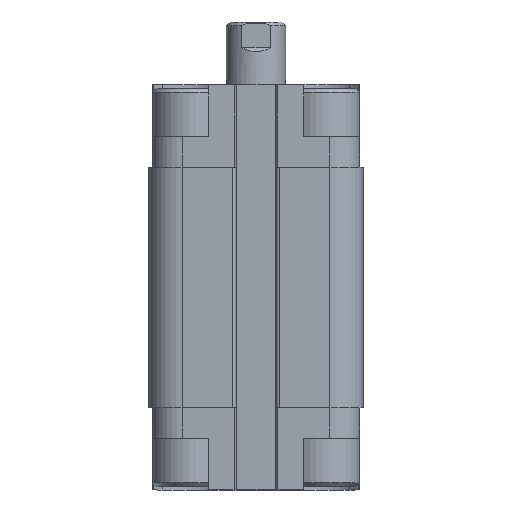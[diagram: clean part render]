
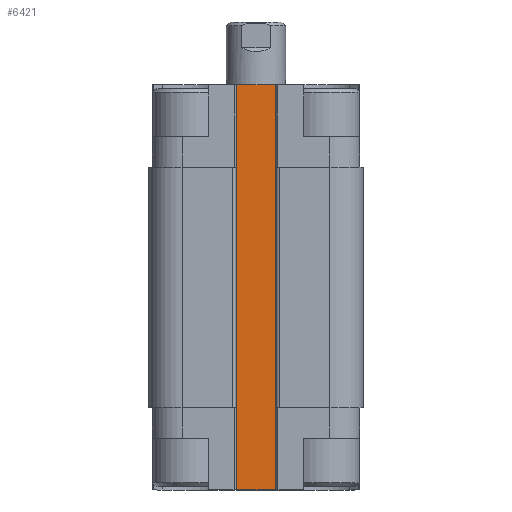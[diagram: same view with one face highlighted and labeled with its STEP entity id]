
A CAD part, front view. The second image highlights one B-rep face of the part: STEP entity #6421.
In plain terms, the highlighted planar face has unit normal (0, -1, 0).
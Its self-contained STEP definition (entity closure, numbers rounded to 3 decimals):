
#50 = CARTESIAN_POINT ( 'NONE',  ( -2.6, -10.2, 43.65 ) ) ;
#59 = CARTESIAN_POINT ( 'NONE',  ( 2.6, -10.2, 43.65 ) ) ;
#1076 = VERTEX_POINT ( 'NONE', #50 ) ;
#1085 = VERTEX_POINT ( 'NONE', #59 ) ;
#1763 = AXIS2_PLACEMENT_3D ( 'NONE', #9330, #9338, #9339 ) ;
#2784 = DIRECTION ( 'NONE',  ( 1., 0., 0. ) ) ;
#2790 = CARTESIAN_POINT ( 'NONE',  ( 0., -10.2, 43.65 ) ) ;
#2921 = LINE ( 'NONE', #8927, #2931 ) ;
#2925 = LINE ( 'NONE', #8923, #2927 ) ;
#2926 = LINE ( 'NONE', #8931, #2929 ) ;
#2927 = VECTOR ( 'NONE', #8917, 1000. ) ;
#2929 = VECTOR ( 'NONE', #8933, 1000. ) ;
#2931 = VECTOR ( 'NONE', #8934, 1000. ) ;
#4760 = EDGE_LOOP ( 'NONE', ( #6079, #6080, #6081, #6082 ) ) ;
#5210 = EDGE_CURVE ( 'NONE', #1076, #1085, #7264, .T. ) ;
#5278 = EDGE_CURVE ( 'NONE', #9056, #1076, #2925, .T. ) ;
#5279 = EDGE_CURVE ( 'NONE', #9056, #9015, #2926, .T. ) ;
#5280 = EDGE_CURVE ( 'NONE', #1085, #9015, #2921, .T. ) ;
#6079 = ORIENTED_EDGE ( 'NONE', *, *, #5279, .T. ) ;
#6080 = ORIENTED_EDGE ( 'NONE', *, *, #5280, .F. ) ;
#6081 = ORIENTED_EDGE ( 'NONE', *, *, #5210, .F. ) ;
#6082 = ORIENTED_EDGE ( 'NONE', *, *, #5278, .F. ) ;
#6421 = ADVANCED_FACE ( 'NONE', ( #7685 ), #9335, .F. ) ;
#7264 = LINE ( 'NONE', #2790, #7269 ) ;
#7269 = VECTOR ( 'NONE', #2784, 1000. ) ;
#7685 = FACE_OUTER_BOUND ( 'NONE', #4760, .T. ) ;
#8917 = DIRECTION ( 'NONE',  ( 0., 0., 1. ) ) ;
#8923 = CARTESIAN_POINT ( 'NONE',  ( -2.6, -10.2, 16.25 ) ) ;
#8927 = CARTESIAN_POINT ( 'NONE',  ( 2.6, -10.2, 16.25 ) ) ;
#8931 = CARTESIAN_POINT ( 'NONE',  ( 0., -10.2, -11.15 ) ) ;
#8933 = DIRECTION ( 'NONE',  ( 1., 0., 0. ) ) ;
#8934 = DIRECTION ( 'NONE',  ( 0., 0., -1. ) ) ;
#9015 = VERTEX_POINT ( 'NONE', #9880 ) ;
#9056 = VERTEX_POINT ( 'NONE', #9913 ) ;
#9330 = CARTESIAN_POINT ( 'NONE',  ( 2.6, -10.2, -11.15 ) ) ;
#9335 = PLANE ( 'NONE',  #1763 ) ;
#9338 = DIRECTION ( 'NONE',  ( 0., 1., 0. ) ) ;
#9339 = DIRECTION ( 'NONE',  ( -1., 0., 0. ) ) ;
#9880 = CARTESIAN_POINT ( 'NONE',  ( 2.6, -10.2, -11.15 ) ) ;
#9913 = CARTESIAN_POINT ( 'NONE',  ( -2.6, -10.2, -11.15 ) ) ;
